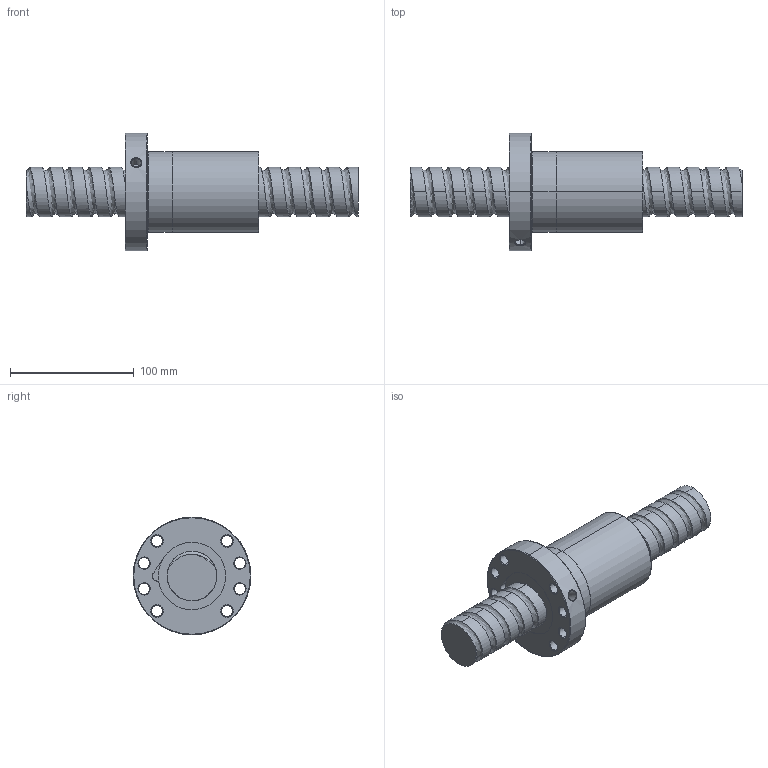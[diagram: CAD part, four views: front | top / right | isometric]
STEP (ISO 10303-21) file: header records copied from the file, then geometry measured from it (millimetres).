
FILE_DESCRIPTION (( 'STEP AP214' ), '1' );
FILE_NAME ('FSDC04016T5-F-A.STEP', '2010-06-25T12:18:43', ( 'XPAUTO' ), ( 'XPAUTO' ), 'SwSTEP 2.0', 'SolidWorks 2007', '' );
FILE_SCHEMA (( 'AUTOMOTIVE_DESIGN' ));
Length unit declared in the file: millimetre
Products named in the file (3): FSDC04016T5-F-A.sldasm-Part-2_預設; FSDC04016T5-F-A; FSDC04016T5-F-A.sldasm-Part-1_預設
Assembly tree (2 placements, depth 2):
  FSDC04016T5-F-A
    FSDC04016T5-F-A.sldasm-Part-1_預設
    FSDC04016T5-F-A.sldasm-Part-2_預設
Bounding box: 268 x 95 x 95 mm (x, y, z)
Volume: 591138.4 mm3; surface area: 92737.2 mm2
Topology: 2 solids, 2 shells, 136 faces, 338 edges, 211 vertices
Faces by surface type: cylinder 77, cone 32, plane 16, torus 6, bspline 5
Entity records: 26193 total; most frequent: CARTESIAN_POINT 22926, ORIENTED_EDGE 676, DIRECTION 650, EDGE_CURVE 338, AXIS2_PLACEMENT_3D 267, VERTEX_POINT 211, EDGE_LOOP 161, FACE_OUTER_BOUND 136
